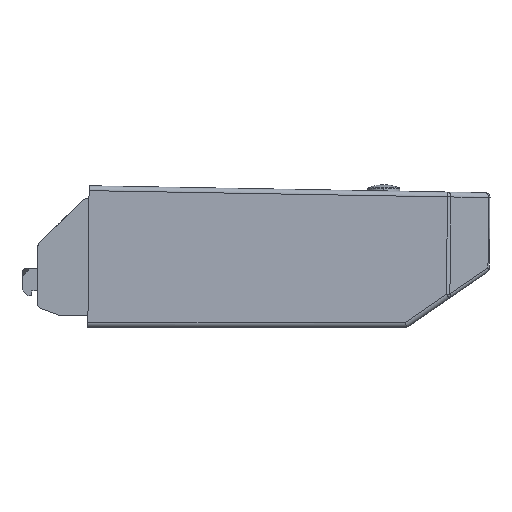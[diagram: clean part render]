
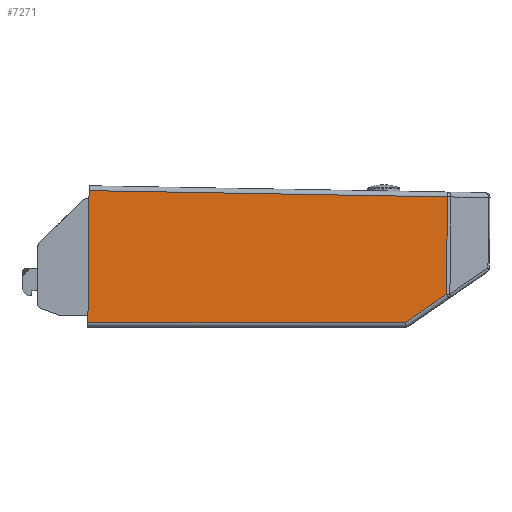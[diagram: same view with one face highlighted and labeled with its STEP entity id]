
A CAD part, front view. The second image highlights one B-rep face of the part: STEP entity #7271.
In plain terms, the highlighted planar face has unit normal (0.009, -1, 0).
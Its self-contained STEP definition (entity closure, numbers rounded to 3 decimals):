
#386=DIRECTION('',(-0.009,0.,-1.));
#387=VECTOR('',#386,13.55);
#388=CARTESIAN_POINT('',(-16.639,-14.753,13.899));
#389=LINE('',#388,#387);
#501=DIRECTION('',(1.,0.009,-0.017));
#502=VECTOR('',#501,36.821);
#503=CARTESIAN_POINT('',(-16.639,-14.753,13.899));
#504=LINE('',#503,#502);
#505=DIRECTION('',(-0.824,-0.007,-0.566));
#506=VECTOR('',#505,5.152);
#507=CARTESIAN_POINT('',(20.088,-14.431,3.268));
#508=LINE('',#507,#506);
#509=DIRECTION('',(-1.,-0.009,0.));
#510=VECTOR('',#509,32.601);
#511=CARTESIAN_POINT('',(15.842,-14.468,0.35));
#512=LINE('',#511,#510);
#513=CARTESIAN_POINT('',(-16.639,-14.753,13.899));
#612=DIRECTION('',(0.009,0.,1.));
#613=VECTOR('',#612,9.989);
#614=CARTESIAN_POINT('',(20.088,-14.431,3.268));
#615=LINE('',#614,#613);
#6333=VERTEX_POINT('',#513);
#6334=CARTESIAN_POINT('',(-16.757,-14.753,
0.35));
#6335=VERTEX_POINT('',#6334);
#6373=CARTESIAN_POINT('',(15.842,-14.468,
0.35));
#6374=VERTEX_POINT('',#6373);
#6375=CARTESIAN_POINT('',(20.175,-14.431,13.257));
#6376=VERTEX_POINT('',#6375);
#6377=CARTESIAN_POINT('',(20.088,-14.431,3.268));
#6378=VERTEX_POINT('',#6377);
#7256=CARTESIAN_POINT('',(-16.635,-14.753,
14.399));
#7257=DIRECTION('',(0.009,-1.,0.));
#7258=DIRECTION('',(1.,0.009,-0.009));
#7259=AXIS2_PLACEMENT_3D('',#7256,#7257,#7258);
#7260=PLANE('',#7259);
#7261=ORIENTED_EDGE('',*,*,#7110,.F.);
#7263=ORIENTED_EDGE('',*,*,#7262,.T.);
#7265=ORIENTED_EDGE('',*,*,#7264,.F.);
#7267=ORIENTED_EDGE('',*,*,#7266,.T.);
#7268=ORIENTED_EDGE('',*,*,#7249,.T.);
#7269=EDGE_LOOP('',(#7261,#7263,#7265,#7267,#7268));
#7270=FACE_OUTER_BOUND('',#7269,.F.);
#7271=ADVANCED_FACE('',(#7270),#7260,.T.);
#7110=EDGE_CURVE('',#6333,#6335,#389,.T.);
#7249=EDGE_CURVE('',#6374,#6335,#512,.T.);
#7262=EDGE_CURVE('',#6333,#6376,#504,.T.);
#7264=EDGE_CURVE('',#6378,#6376,#615,.T.);
#7266=EDGE_CURVE('',#6378,#6374,#508,.T.);
